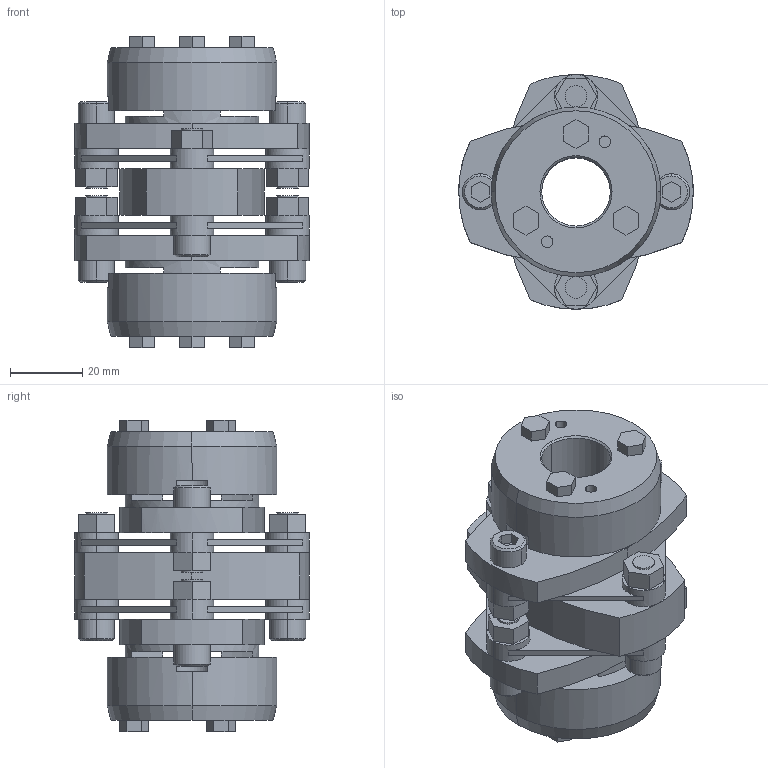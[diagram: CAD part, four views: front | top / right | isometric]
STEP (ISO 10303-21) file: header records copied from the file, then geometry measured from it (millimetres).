
FILE_DESCRIPTION((''),'2;1');
FILE_NAME('LCD-65T7-19×19.stp','2011-08-23T14:04:42',(''),(''),'AutoCAD STEP 2000i','AutoCAD 2000i',', , ');
FILE_SCHEMA(('CONFIG_CONTROL_DESIGN'));
Length unit declared in the file: millimetre
Products named in the file (9): LCD-65T7-19×19; 忣兜1; LC65T7-T019-1; LC65T7-T019; LC65T7-T017-1; LC65T7-T017; LC65T7-T015-1; LC65T7-T015; LCD65-ITA
Assembly tree (8 placements, depth 2):
  LCD-65T7-19×19
    忣兜1
    LC65T7-T019-1
    LC65T7-T019
    LC65T7-T017-1
    LC65T7-T017
    LC65T7-T015-1
    LC65T7-T015
    LCD65-ITA
Bounding box: 65 x 65 x 86.4 mm (x, y, z)
Volume: 117823.8 mm3; surface area: 41442.9 mm2
Topology: 1 solids, 1 shells, 304 faces, 792 edges, 516 vertices
Faces by surface type: plane 180, cylinder 100, cone 24
Entity records: 9619 total; most frequent: DIRECTION 1710, CARTESIAN_POINT 1621, ORIENTED_EDGE 1584, EDGE_CURVE 792, AXIS2_PLACEMENT_3D 605, VERTEX_POINT 516, VECTOR 500, LINE 500
